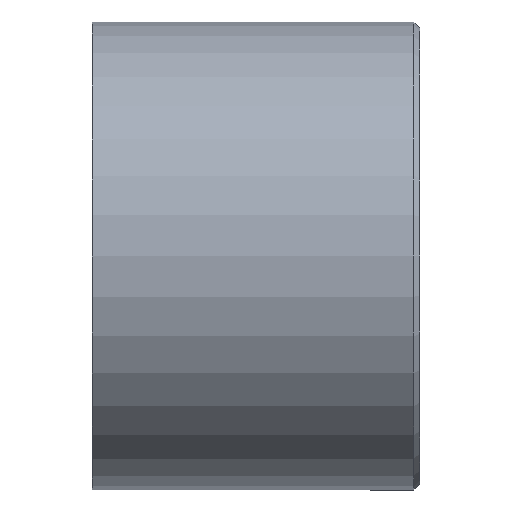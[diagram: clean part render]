
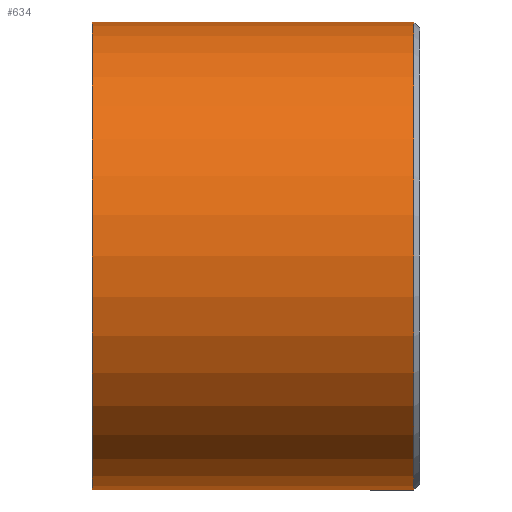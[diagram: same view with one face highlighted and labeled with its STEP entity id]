
A CAD part, left-side view. The second image highlights one B-rep face of the part: STEP entity #634.
In plain terms, the highlighted cylindrical face has radius 31.75 mm (diameter 63.5 mm), a partial arc.
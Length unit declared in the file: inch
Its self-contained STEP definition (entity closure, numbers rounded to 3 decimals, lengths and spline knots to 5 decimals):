
#51 = VERTEX_POINT ( 'NONE', #1343 ) ;
#84 = ORIENTED_EDGE ( 'NONE', *, *, #792, .T. ) ;
#117 = EDGE_CURVE ( 'NONE', #941, #1391, #1279, .T. ) ;
#135 = AXIS2_PLACEMENT_3D ( 'NONE', #1234, #354, #144 ) ;
#144 = DIRECTION ( 'NONE',  ( 0., 0., 1. ) ) ;
#174 = VERTEX_POINT ( 'NONE', #927 ) ;
#223 = CARTESIAN_POINT ( 'NONE',  ( 0., 0.5, 1.25 ) ) ;
#271 = CARTESIAN_POINT ( 'NONE',  ( 0., 0.03125, -1.25 ) ) ;
#293 = DIRECTION ( 'NONE',  ( 0., 1., 0. ) ) ;
#354 = DIRECTION ( 'NONE',  ( 0., -1., 0. ) ) ;
#387 = LINE ( 'NONE', #403, #406 ) ;
#389 = DIRECTION ( 'NONE',  ( 0., 1., 0. ) ) ;
#403 = CARTESIAN_POINT ( 'NONE',  ( 0., 2.73955, -1.25 ) ) ;
#406 = VECTOR ( 'NONE', #389, 39.37008 ) ;
#433 = FACE_OUTER_BOUND ( 'NONE', #1109, .T. ) ;
#473 = VERTEX_POINT ( 'NONE', #1246 ) ;
#474 = DIRECTION ( 'NONE',  ( 0., 1., 0. ) ) ;
#520 = DIRECTION ( 'NONE',  ( 0., 1., 0. ) ) ;
#529 = EDGE_CURVE ( 'NONE', #1806, #941, #1898, .T. ) ;
#533 = CARTESIAN_POINT ( 'NONE',  ( 0., 0.03125, 0. ) ) ;
#544 = CARTESIAN_POINT ( 'NONE',  ( 0., 0.03125, 1.25 ) ) ;
#621 = EDGE_CURVE ( 'NONE', #174, #1391, #1468, .T. ) ;
#634 = ADVANCED_FACE ( 'NONE', ( #433 ), #1795, .T. ) ;
#697 = EDGE_CURVE ( 'NONE', #51, #1013, #1087, .T. ) ;
#792 = EDGE_CURVE ( 'NONE', #1763, #473, #854, .T. ) ;
#836 = VECTOR ( 'NONE', #474, 39.37008 ) ;
#854 = CIRCLE ( 'NONE', #135, 1.25 ) ;
#859 = DIRECTION ( 'NONE',  ( 0., 1., 0. ) ) ;
#867 = CARTESIAN_POINT ( 'NONE',  ( 0., 0.5625, -1.25 ) ) ;
#869 = CARTESIAN_POINT ( 'NONE',  ( 0., 1.75, 1.25 ) ) ;
#890 = DIRECTION ( 'NONE',  ( 0., 1., 0. ) ) ;
#927 = CARTESIAN_POINT ( 'NONE',  ( 0., 0.5625, 1.25 ) ) ;
#941 = VERTEX_POINT ( 'NONE', #544 ) ;
#988 = CARTESIAN_POINT ( 'NONE',  ( 0., 0.5, 1.25 ) ) ;
#995 = VECTOR ( 'NONE', #520, 39.37008 ) ;
#1007 = EDGE_CURVE ( 'NONE', #1013, #473, #387, .T. ) ;
#1013 = VERTEX_POINT ( 'NONE', #867 ) ;
#1029 = EDGE_CURVE ( 'NONE', #174, #1763, #1426, .T. ) ;
#1030 = CARTESIAN_POINT ( 'NONE',  ( 0., 2.73955, 1.25 ) ) ;
#1080 = AXIS2_PLACEMENT_3D ( 'NONE', #533, #859, #1417 ) ;
#1087 = LINE ( 'NONE', #1451, #1498 ) ;
#1109 = EDGE_LOOP ( 'NONE', ( #1827, #1539, #1189, #1886, #1677, #84, #1122, #1218 ) ) ;
#1122 = ORIENTED_EDGE ( 'NONE', *, *, #1007, .F. ) ;
#1189 = ORIENTED_EDGE ( 'NONE', *, *, #117, .T. ) ;
#1210 = CARTESIAN_POINT ( 'NONE',  ( 0., 2.73955, 1.25 ) ) ;
#1218 = ORIENTED_EDGE ( 'NONE', *, *, #697, .F. ) ;
#1234 = CARTESIAN_POINT ( 'NONE',  ( 0., 1.75, 0. ) ) ;
#1246 = CARTESIAN_POINT ( 'NONE',  ( 0., 1.75, -1.25 ) ) ;
#1279 = LINE ( 'NONE', #1210, #836 ) ;
#1280 = AXIS2_PLACEMENT_3D ( 'NONE', #1769, #890, #1747 ) ;
#1298 = VECTOR ( 'NONE', #1594, 39.37008 ) ;
#1343 = CARTESIAN_POINT ( 'NONE',  ( 0., 0.5, -1.25 ) ) ;
#1391 = VERTEX_POINT ( 'NONE', #223 ) ;
#1404 = LINE ( 'NONE', #1832, #995 ) ;
#1417 = DIRECTION ( 'NONE',  ( 0., 0., 1. ) ) ;
#1423 = EDGE_CURVE ( 'NONE', #1806, #51, #1404, .T. ) ;
#1426 = LINE ( 'NONE', #1030, #1584 ) ;
#1451 = CARTESIAN_POINT ( 'NONE',  ( 0., 0.5, -1.25 ) ) ;
#1468 = LINE ( 'NONE', #988, #1298 ) ;
#1498 = VECTOR ( 'NONE', #293, 39.37008 ) ;
#1539 = ORIENTED_EDGE ( 'NONE', *, *, #529, .T. ) ;
#1584 = VECTOR ( 'NONE', #1600, 39.37008 ) ;
#1594 = DIRECTION ( 'NONE',  ( 0., -1., 0. ) ) ;
#1600 = DIRECTION ( 'NONE',  ( 0., 1., 0. ) ) ;
#1677 = ORIENTED_EDGE ( 'NONE', *, *, #1029, .T. ) ;
#1747 = DIRECTION ( 'NONE',  ( 0., 0., 1. ) ) ;
#1763 = VERTEX_POINT ( 'NONE', #869 ) ;
#1769 = CARTESIAN_POINT ( 'NONE',  ( 0., 2.73955, 0. ) ) ;
#1795 = CYLINDRICAL_SURFACE ( 'NONE', #1280, 1.25 ) ;
#1806 = VERTEX_POINT ( 'NONE', #271 ) ;
#1827 = ORIENTED_EDGE ( 'NONE', *, *, #1423, .F. ) ;
#1832 = CARTESIAN_POINT ( 'NONE',  ( 0., 2.73955, -1.25 ) ) ;
#1886 = ORIENTED_EDGE ( 'NONE', *, *, #621, .F. ) ;
#1898 = CIRCLE ( 'NONE', #1080, 1.25 ) ;
